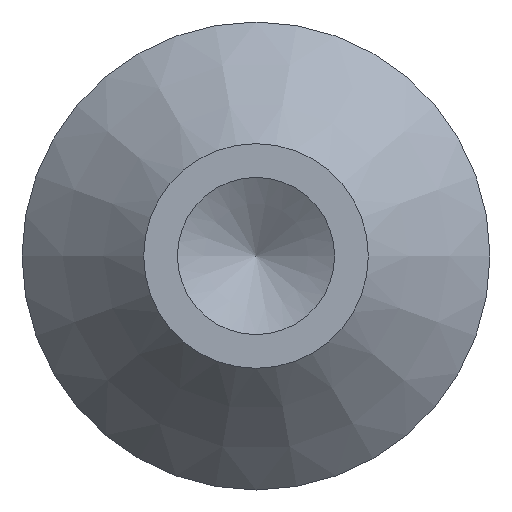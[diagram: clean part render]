
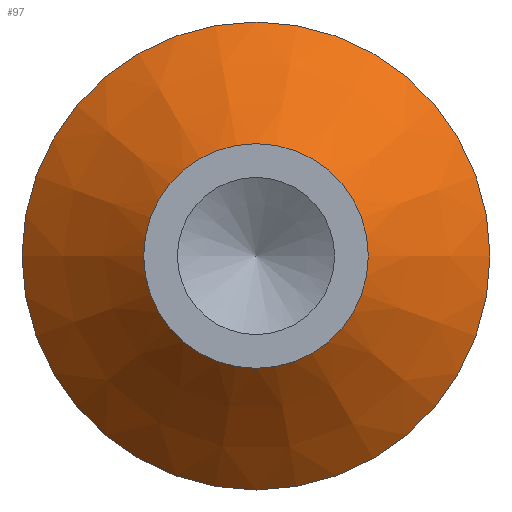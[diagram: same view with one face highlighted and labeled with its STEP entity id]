
A CAD part, left-side view. The second image highlights one B-rep face of the part: STEP entity #97.
In plain terms, the highlighted conical face has half-angle 45 degrees and reference radius 1.175 mm.
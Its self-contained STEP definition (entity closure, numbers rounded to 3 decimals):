
#18=FACE_BOUND($,#42,.T.);
#32=FACE_OUTER_BOUND($,#41,.T.);
#41=EDGE_LOOP($,(#81));
#42=EDGE_LOOP($,(#82));
#54=CIRCLE($,#111,0.762);
#56=CIRCLE($,#114,1.588);
#62=VERTEX_POINT($,#167);
#64=VERTEX_POINT($,#172);
#70=EDGE_CURVE($,#62,#62,#54,.T.);
#72=EDGE_CURVE($,#64,#64,#56,.T.);
#81=ORIENTED_EDGE($,*,*,#72,.F.);
#82=ORIENTED_EDGE($,*,*,#70,.T.);
#93=CONICAL_SURFACE($,#113,1.175,45.);
#97=ADVANCED_FACE($,(#32,#18),#93,.T.);
#111=AXIS2_PLACEMENT_3D($,#168,#135,#136);
#113=AXIS2_PLACEMENT_3D($,#171,#139,#140);
#114=AXIS2_PLACEMENT_3D($,#173,#141,#142);
#135=DIRECTION('center_axis',(1.,0.,0.));
#136=DIRECTION('ref_axis',(0.,1.,0.));
#139=DIRECTION('center_axis',(1.,0.,0.));
#140=DIRECTION('ref_axis',(0.,1.,0.));
#141=DIRECTION('center_axis',(1.,0.,0.));
#142=DIRECTION('ref_axis',(0.,1.,0.));
#167=CARTESIAN_POINT('',(3.175,0.762,0.));
#168=CARTESIAN_POINT('Origin',(3.175,0.,0.));
#171=CARTESIAN_POINT('Origin',(3.588,0.,0.));
#172=CARTESIAN_POINT('',(4.001,1.588,0.));
#173=CARTESIAN_POINT('Origin',(4.001,0.,0.));
